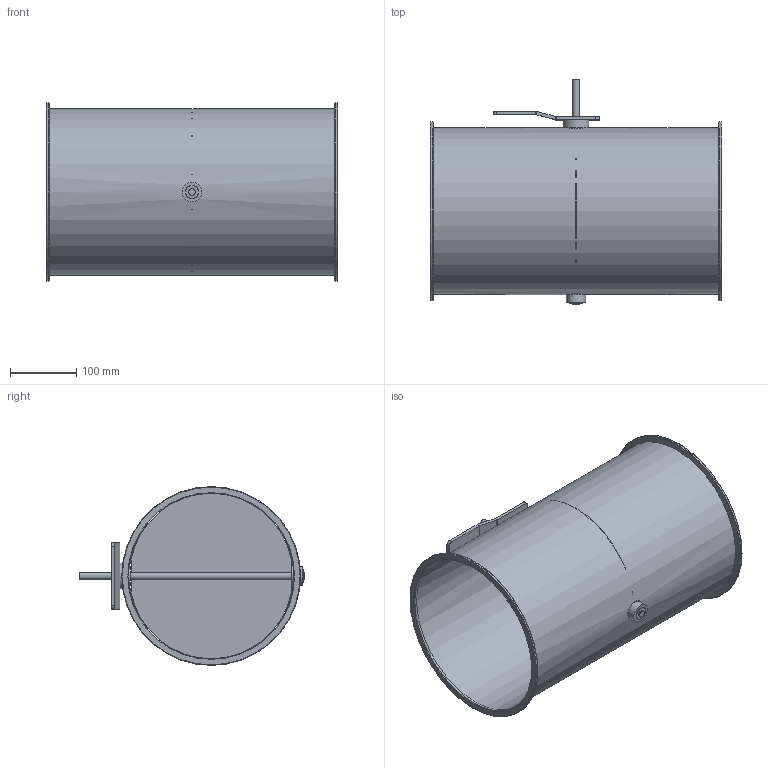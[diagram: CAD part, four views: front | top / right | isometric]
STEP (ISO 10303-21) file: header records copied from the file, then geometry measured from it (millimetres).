
FILE_DESCRIPTION(/* description */ (''),/* implementation_level */ '2;1');
FILE_NAME(/* name */ 'EA103-80B__250_L440_Belimo_Typ_SM.stp',/* time_stamp */ '2017-12-06T14:54:07+01:00',/* author */ (''),/* organization */ (''),/* preprocessor_version */ 'ST-DEVELOPER v11',/* originating_system */ 'SIEMENS UGS NX 6.0',/* authorisation */ '');
FILE_SCHEMA (('CONFIG_CONTROL_DESIGN'));
Length unit declared in the file: millimetre
Products named in the file (1): gars18E2j29p
Bounding box: 440 x 340 x 270 mm (x, y, z)
Volume: 525916.3 mm3; surface area: 876329.7 mm2
Topology: 8 solids, 8 shells, 76 faces, 158 edges, 100 vertices
Faces by surface type: plane 36, cylinder 32, torus 6, cone 2
Full cylindrical faces by diameter (mm): 4.1 x4, 10 x3, 19 x3, 19.85 x2, 20 x2, 29 x1, 30 x2, 39 x1, 250 x1, 251.6 x1, 270 x2
Entity records: 1960 total; most frequent: CARTESIAN_POINT 353, DIRECTION 334, ORIENTED_EDGE 236, AXIS2_PLACEMENT_3D 143, EDGE_LOOP 132, EDGE_CURVE 118, FACE_BOUND 102, VERTEX_POINT 90
